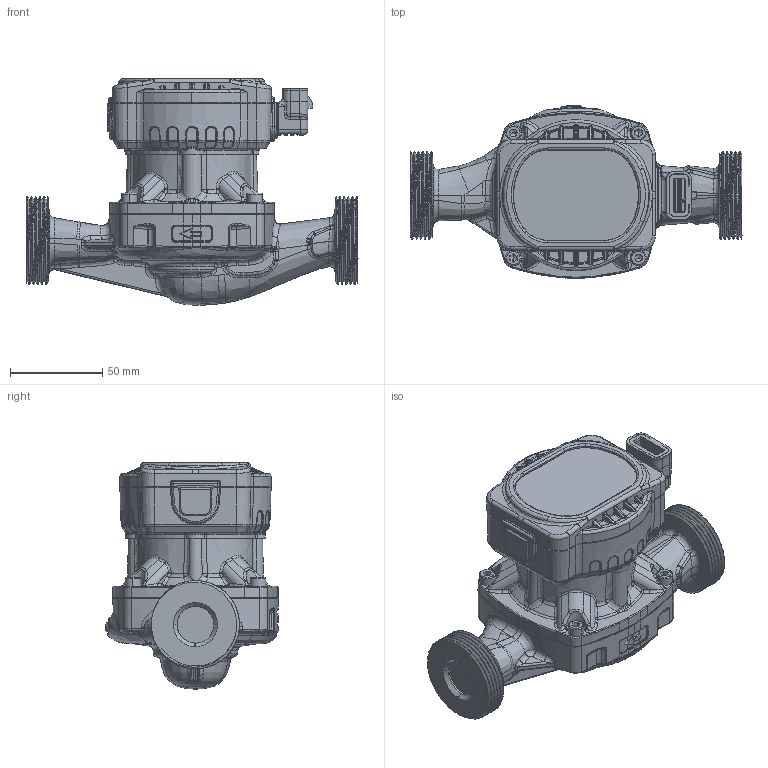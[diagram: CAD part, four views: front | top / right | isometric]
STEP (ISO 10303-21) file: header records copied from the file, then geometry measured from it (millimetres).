
FILE_DESCRIPTION (( 'STEP AP214' ), '1' );
FILE_NAME ('APH_pompa_obiegowa_1836000_1_3D_AFRISO.STEP', '2026-09-16T09:19:02', ( '' ), ( '' ), 'SwSTEP 2.0', 'SolidWorks 2024', '' );
FILE_SCHEMA (( 'AUTOMOTIVE_DESIGN' ));
Length unit declared in the file: millimetre
Products named in the file (3): NEW_APH TOP; AHP180_korpus; APH_pompa_obiegowa_1836000_1_3D_AFRISO
Assembly tree (2 placements, depth 2):
  APH_pompa_obiegowa_1836000_1_3D_AFRISO
    NEW_APH TOP
    AHP180_korpus
Bounding box: 180 x 93.67 x 122.75 mm (x, y, z)
Volume: 302764.6 mm3; surface area: 76865.4 mm2
Topology: 1 solids, 4 shells, 2545 faces, 6236 edges, 3650 vertices
Faces by surface type: bspline 1186, cylinder 568, plane 360, torus 204, cone 140, sphere 87
Entity records: 165261 total; most frequent: CARTESIAN_POINT 109671, ORIENTED_EDGE 12196, DIRECTION 6315, EDGE_CURVE 6149, VERTEX_POINT 3637, B_SPLINE_CURVE_WITH_KNOTS 3311, EDGE_LOOP 2566, ADVANCED_FACE 2540
